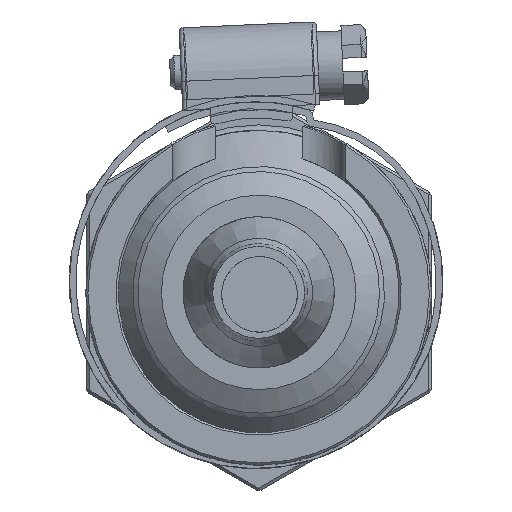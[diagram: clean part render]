
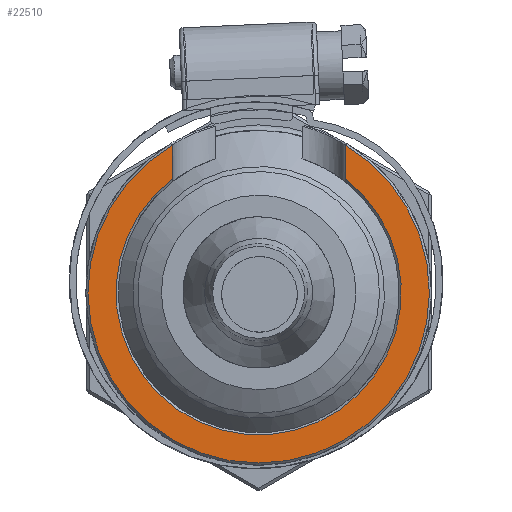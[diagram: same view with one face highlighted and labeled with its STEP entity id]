
A CAD part, front view. The second image highlights one B-rep face of the part: STEP entity #22510.
In plain terms, the highlighted planar face has unit normal (0, -1, 0) as drawn and (0, 1, 0) by its records, which use the part's own axes.
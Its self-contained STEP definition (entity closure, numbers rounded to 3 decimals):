
#195=PLANE('',#23545);
#862=LINE('',#39697,#2281);
#863=LINE('',#39698,#2282);
#2281=VECTOR('',#25539,1000.);
#2282=VECTOR('',#25540,1000.);
#4197=CIRCLE('',#23512,13.2);
#4213=CIRCLE('',#23539,15.8);
#5611=ORIENTED_EDGE('',*,*,#10431,.F.);
#5612=ORIENTED_EDGE('',*,*,#10379,.T.);
#5613=ORIENTED_EDGE('',*,*,#10432,.T.);
#5614=ORIENTED_EDGE('',*,*,#10422,.F.);
#10379=EDGE_CURVE('',#12875,#12877,#4197,.T.);
#10422=EDGE_CURVE('',#12910,#12911,#4213,.T.);
#10431=EDGE_CURVE('',#12875,#12910,#862,.T.);
#10432=EDGE_CURVE('',#12877,#12911,#863,.T.);
#12875=VERTEX_POINT('',#39494);
#12877=VERTEX_POINT('',#39498);
#12910=VERTEX_POINT('',#39679);
#12911=VERTEX_POINT('',#39681);
#15118=EDGE_LOOP('',(#5611,#5612,#5613,#5614));
#16269=FACE_BOUND('',#15118,.T.);
#22510=ADVANCED_FACE('',(#16269),#195,.F.);
#23512=AXIS2_PLACEMENT_3D('',#39499,#25447,#25448);
#23539=AXIS2_PLACEMENT_3D('',#39680,#25518,#25519);
#23545=AXIS2_PLACEMENT_3D('',#39696,#25537,#25538);
#25447=DIRECTION('',(0.,-1.,0.));
#25448=DIRECTION('',(0.,0.,-1.));
#25518=DIRECTION('',(0.,-1.,0.));
#25519=DIRECTION('',(0.,0.,-1.));
#25537=DIRECTION('',(0.,-1.,0.));
#25538=DIRECTION('',(0.,0.,-1.));
#25539=DIRECTION('',(1.,0.,0.));
#25540=DIRECTION('',(1.,0.,0.));
#39494=CARTESIAN_POINT('',(10.5,70.,8.));
#39498=CARTESIAN_POINT('',(10.5,70.,-8.));
#39499=CARTESIAN_POINT('',(0.,70.,0.));
#39679=CARTESIAN_POINT('',(13.625,70.,8.));
#39680=CARTESIAN_POINT('',(0.,70.,0.));
#39681=CARTESIAN_POINT('',(13.625,70.,-8.));
#39696=CARTESIAN_POINT('',(-16.,70.,0.));
#39697=CARTESIAN_POINT('',(6.,70.,8.));
#39698=CARTESIAN_POINT('',(6.,70.,-8.));
